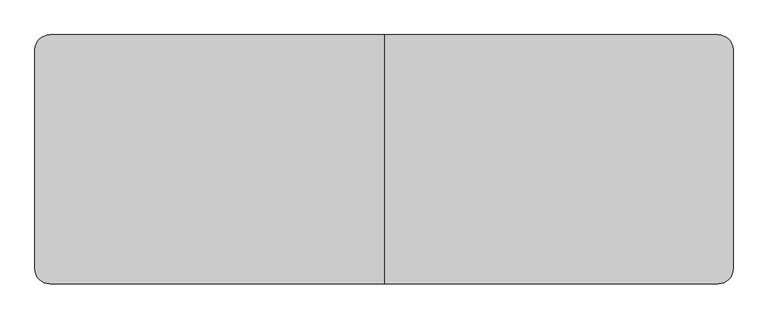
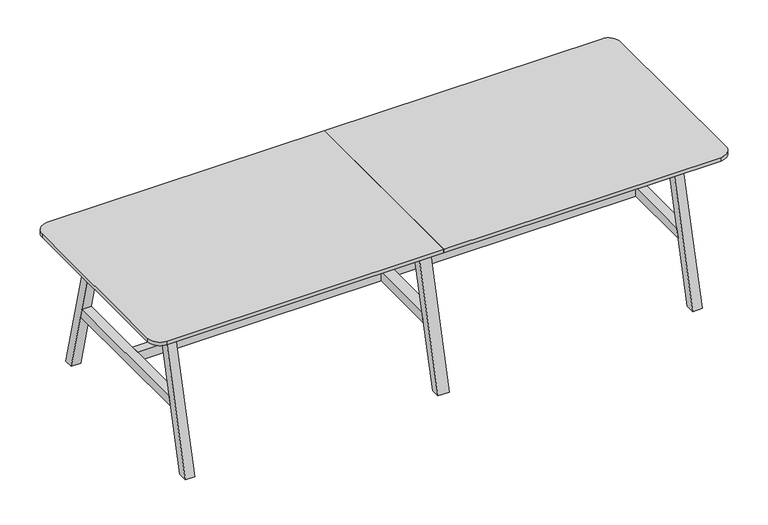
"""IFC4 building model written with IfcOpenShell, lengths in millimetres: furniture geometry, BDG_BossDesign_Tbls_AgentTables6Legs : AGE-DT-6L-2800-1000-3D."""

from ifc_helpers import new_model, si_unit, point, frame, frame_2d, origin, place, context, project, spatial, polyline, circle_curve, trimmed, segment, composite_curve, outline, extrude, source, transform, mapped, element, save


def furniture_deea29bb(model_context):
    return source(origin(), model_context, "Body", "SweptSolid", [
        extrude(outline(polyline([(500.0, 0.0), (454.9999949, 0.0), (285.5, 660.0), (330.5000051, 660.0), (500.0, 0.0)])), frame((-27.5, 0.0, 0.0), z_axis=(1.0, 0.0, 0.0), x_axis=(0.0, 1.0, 0.0)), (0.0, 0.0, 1.0), 55.0),
        extrude(outline(polyline([(-500.0, 0.0), (-330.5000051, 660.0), (-285.5, 660.0), (-454.9999949, 0.0), (-500.0, 0.0)])), frame((-27.5, 0.0, 0.0), z_axis=(1.0, 0.0, 0.0), x_axis=(0.0, 1.0, 0.0)), (0.0, 0.0, 1.0), 55.0),
        extrude(outline(polyline([(377.9545427, 300.0), (-377.9545427, 300.0), (-366.3977249, 345.0), (366.3977249, 345.0), (377.9545427, 300.0)])), frame((-27.5, 0.0, 0.0), z_axis=(1.0, 0.0, 0.0), x_axis=(0.0, 1.0, 0.0)), (0.0, 0.0, 1.0), 55.0),
        extrude(outline(composite_curve([segment(polyline([(0.0, 500.0), (0.0, -500.0), (-1340.0, -500.0)]), True, "CONTINUOUS"), segment(trimmed(circle_curve(frame_2d((-1340.0, -440.0)), 60.0), [point((-1340.0, -500.0))], [point((-1400.0, -440.0))], False, "CARTESIAN"), True, "CONTINUOUS"), segment(polyline([(-1400.0, -440.0), (-1400.0, 440.0)]), True, "CONTINUOUS"), segment(trimmed(circle_curve(frame_2d((-1340.0, 440.0)), 60.0), [point((-1400.0, 440.0))], [point((-1340.0, 500.0))], False, "CARTESIAN"), True, "CONTINUOUS"), segment(polyline([(-1340.0, 500.0), (0.0, 500.0)]), True, "CONTINUOUS")], self_intersect=False)), frame((0.0, 0.0, 722.0), z_axis=(0.0, 0.0, 1.0), x_axis=(1.0, 0.0, 0.0)), (0.0, 0.0, 1.0), 18.0),
        extrude(outline(polyline([(-366.3977249, 345.0), (366.3977249, 345.0), (377.9545427, 300.0), (-377.9545427, 300.0), (-366.3977249, 345.0)])), frame((1205.0, 0.0, 0.0), z_axis=(1.0, 0.0, 0.0), x_axis=(0.0, 1.0, 0.0)), (0.0, 0.0, 1.0), 45.0),
        extrude(outline(polyline([(500.0, 0.0), (454.9999949, 0.0), (285.5, 660.0), (330.5000051, 660.0), (500.0, 0.0)])), frame((-1250.0, 0.0, 0.0), z_axis=(1.0, 0.0, 0.0), x_axis=(0.0, 1.0, 0.0)), (0.0, 0.0, 1.0), 45.0),
        extrude(outline(polyline([(-500.0, 0.0), (-330.5000051, 660.0), (-285.5, 660.0), (-454.9999949, 0.0), (-500.0, 0.0)])), frame((-1250.0, 0.0, 0.0), z_axis=(1.0, 0.0, 0.0), x_axis=(0.0, 1.0, 0.0)), (0.0, 0.0, 1.0), 45.0),
        extrude(outline(polyline([(-366.3977249, 345.0), (366.3977249, 345.0), (377.9545427, 300.0), (-377.9545427, 300.0), (-366.3977249, 345.0)])), frame((-1250.0, 0.0, 0.0), z_axis=(1.0, 0.0, 0.0), x_axis=(0.0, 1.0, 0.0)), (0.0, 0.0, 1.0), 45.0),
        extrude(outline(polyline([(-326.6006165, 634.973938), (-304.2770691, 722.0), (-279.5, 722.0), (-301.8235474, 634.973938), (-326.6006165, 634.973938)])), frame((-1205.0, 0.0, 0.0), z_axis=(1.0, 0.0, 0.0), x_axis=(0.0, 1.0, 0.0)), (0.0, 0.0, 1.0), 2410.0),
        extrude(outline(polyline([(326.6006165, 634.973938), (301.8235474, 634.973938), (279.5, 722.0), (304.2770691, 722.0), (326.6006165, 634.973938)])), frame((-1205.0, 0.0, 0.0), z_axis=(1.0, 0.0, 0.0), x_axis=(0.0, 1.0, 0.0)), (0.0, 0.0, 1.0), 2410.0),
        extrude(outline(polyline([(499.7999878, 0.0), (454.7999827, 0.0), (285.5, 660.0), (330.5000051, 660.0), (499.7999878, 0.0)])), frame((1205.0, 0.0, 0.0), z_axis=(1.0, 0.0, 0.0), x_axis=(0.0, 1.0, 0.0)), (0.0, 0.0, 1.0), 45.0),
        extrude(outline(polyline([(-499.7999878, 0.0), (-330.5000051, 660.0), (-285.5, 660.0), (-454.7999827, 0.0), (-499.7999878, 0.0)])), frame((1205.0, 0.0, 0.0), z_axis=(1.0, 0.0, 0.0), x_axis=(0.0, 1.0, 0.0)), (0.0, 0.0, 1.0), 45.0),
        extrude(outline(polyline([(-27.5, 22.5000305), (-27.5, -22.5000305), (-1205.0, -22.5000305), (-1205.0, 22.5000305), (-27.5, 22.5000305)])), frame((0.0, 0.0, 300.0), z_axis=(0.0, 0.0, 1.0), x_axis=(1.0, 0.0, 0.0)), (0.0, 0.0, 1.0), 45.0),
        extrude(outline(polyline([(27.5, -22.5000305), (27.5, 22.5000305), (1205.0, 22.5000305), (1205.0, -22.5000305), (27.5, -22.5000305)])), frame((0.0, 0.0, 300.0), z_axis=(0.0, 0.0, 1.0), x_axis=(1.0, 0.0, 0.0)), (0.0, 0.0, 1.0), 45.0),
        extrude(outline(composite_curve([segment(trimmed(circle_curve(frame_2d((1340.0, 440.0)), 60.0), [point((1340.0, 500.0))], [point((1400.0, 440.0))], False, "CARTESIAN"), True, "CONTINUOUS"), segment(polyline([(1400.0, 440.0), (1400.0, -440.0)]), True, "CONTINUOUS"), segment(trimmed(circle_curve(frame_2d((1340.0, -440.0)), 60.0), [point((1400.0, -440.0))], [point((1340.0, -500.0))], False, "CARTESIAN"), True, "CONTINUOUS"), segment(polyline([(1340.0, -500.0), (0.0, -500.0), (0.0, 500.0), (1340.0, 500.0)]), True, "CONTINUOUS")], self_intersect=False)), frame((0.0, 0.0, 722.0), z_axis=(0.0, 0.0, 1.0), x_axis=(1.0, 0.0, 0.0)), (0.0, 0.0, 1.0), 18.0),
    ])


if __name__ == "__main__":
    model = new_model("IFC4")
    model_context = context("Model", 3, world=origin())
    ifc_project = project(units=[si_unit("LENGTHUNIT", "METRE", prefix="MILLI")], contexts=[model_context])
    site = spatial("IfcSite", under=ifc_project)
    building = spatial("IfcBuilding", under=site)
    placement = place(None, origin())
    furniture_shape = furniture_deea29bb(model_context)
    element("IfcFurniture", 1, ObjectType="BDG_BossDesign_Tbls_AgentTables6Legs : AGE-DT-6L-2800-1000-3D", at=placement, inside=building, context=model_context, shape_type="MappedRepresentation", body=[
        mapped(furniture_shape, transform((0.0, 0.0, 0.0), x_axis=(1.0, 0.0, 0.0), y_axis=(0.0, 1.0, 0.0), z_axis=(0.0, 0.0, 1.0))),
    ])
    save(model, "model.ifc")
